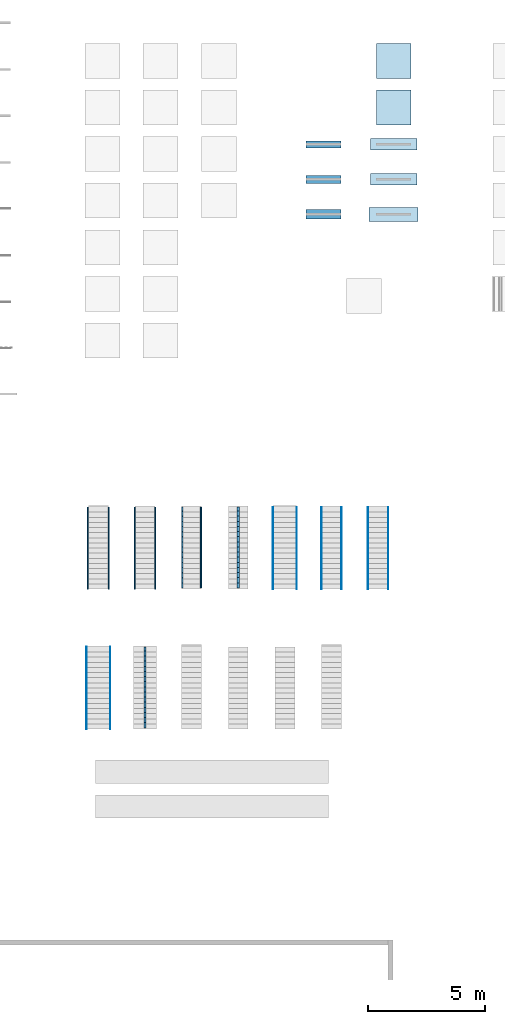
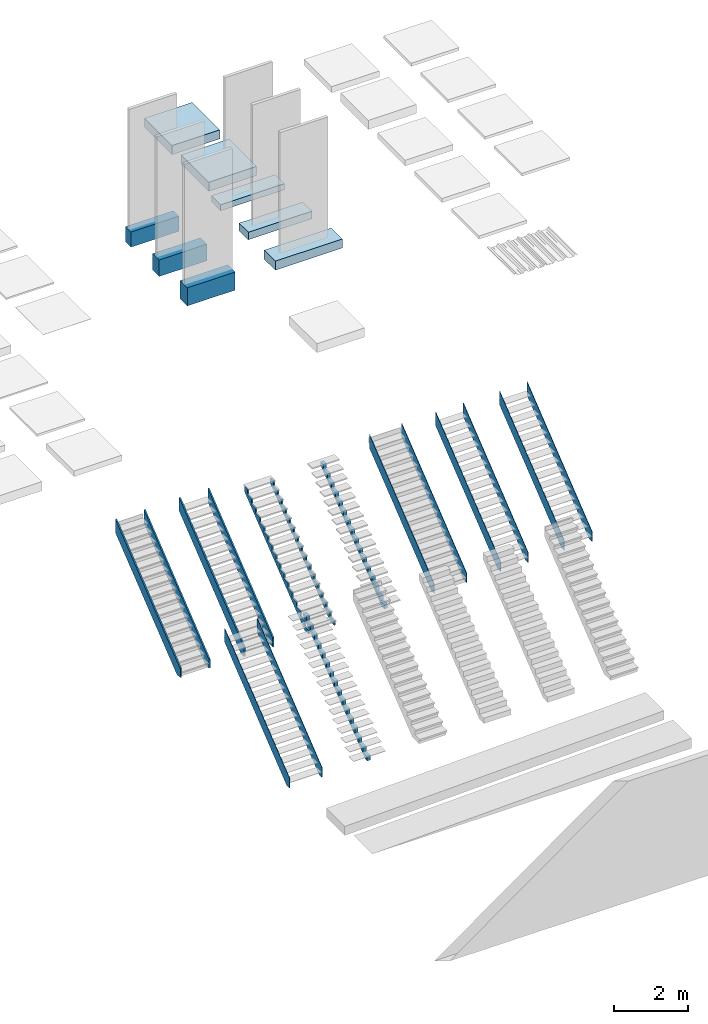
# One storey, part 1 of 13: 16 members, 8 footings, 9 elements without a shape of their own.
"""IFC2X3 building model written with IfcOpenShell, lengths in millimetres."""

from ifc_helpers import new_model, entity, si_unit, converted_unit, derived_unit, direction, frame, frame_2d, origin, origin_2d_with_axis, place, context, subcontext, project, spatial, polyline, rectangle, outline, extrude, material, layer, layer_set, layer_usage, type_object, element, aggregate, save


model = new_model("IFC2X3")

# Units and contexts
model_context = context("Model", 3, precision=0.01, world=origin(), true_north=direction((6.12303176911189e-17, 1.0)))
body_context = subcontext(model_context, "Body", "Model", "MODEL_VIEW")
ifc_project = project(units=[si_unit("LENGTHUNIT", "METRE", prefix="MILLI"), si_unit("AREAUNIT", "SQUARE_METRE"), si_unit("VOLUMEUNIT", "CUBIC_METRE"), converted_unit("PLANEANGLEUNIT", "DEGREE", entity("IfcRatioMeasure", 0.0174532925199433), si_unit("PLANEANGLEUNIT", "RADIAN"), dimensions=[0, 0, 0, 0, 0, 0, 0]), si_unit("MASSUNIT", "GRAM", prefix="KILO"), si_unit("TIMEUNIT", "SECOND"), si_unit("FREQUENCYUNIT", "HERTZ"), si_unit("THERMODYNAMICTEMPERATUREUNIT", "KELVIN"), derived_unit("THERMALTRANSMITTANCEUNIT", [(si_unit("MASSUNIT", "GRAM", prefix="KILO"), 1), (si_unit("THERMODYNAMICTEMPERATUREUNIT", "KELVIN"), -1), (si_unit("TIMEUNIT", "SECOND"), -3)]), derived_unit("VOLUMETRICFLOWRATEUNIT", [(si_unit("LENGTHUNIT", "METRE"), 3), (si_unit("TIMEUNIT", "SECOND"), -1)]), si_unit("ELECTRICCURRENTUNIT", "AMPERE"), si_unit("ELECTRICVOLTAGEUNIT", "VOLT"), si_unit("POWERUNIT", "WATT")], contexts=[model_context])

# Site, building, storey
site_placement = place(None, origin())
site = spatial("IfcSite", under=ifc_project, at=site_placement, Name="Surface", CompositionType="ELEMENT")
building_placement = place(site_placement, origin())
building = spatial("IfcBuilding", under=site, at=building_placement, CompositionType="ELEMENT")
storey_placement = place(building_placement, origin())
storey = spatial("IfcBuildingStorey", under=building, at=storey_placement, Name="00_begane grond", CompositionType="ELEMENT", Elevation=0.0)

# Footings
ifc_material_1 = material(Name="00_beton_ihwg_generiek")
ifc_layer_1 = layer(ifc_material_1, 300.0)
ifc_layer_set_1 = layer_set([ifc_layer_1], Name="Foundation Slab:16_SFO_funderingsplaat_beton_generiek_300")
ifc_layer_usage_1 = layer_usage(ifc_layer_set_1, "AXIS3", "POSITIVE", 0.0)
footing_1_placement = place(storey_placement, origin())
element("IfcFooting", 1, at=footing_1_placement, inside=storey, material=ifc_layer_usage_1, Name="Foundation Slab:16_SFO_funderingsplaat_beton_generiek_300", ObjectType="Foundation Slab:16_SFO_funderingsplaat_beton_generiek_300", PredefinedType="NOTDEFINED", context=body_context, shape_type="SweptSolid", body=[
    extrude(rectangle(XDim=1500.0, YDim=1500.00000000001, at=frame_2d((-1.13686837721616e-13, 0.0), x_axis=(1.0, 0.0))), frame((30443.3473849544, -2665.0, 0.0), z_axis=(0.0, 0.0, -1.0), x_axis=(0.0, 1.0, 0.0)), (0.0, 0.0, 1.0), 300.0),
])
ifc_material_2 = material(Name="16_beton_ihwg_C30/35")
ifc_layer_2 = layer(ifc_material_2, 300.0)
ifc_layer_set_2 = layer_set([ifc_layer_2], Name="Foundation Slab:16_SFO_funderingsplaat_ihwg_beton_C30/37")
ifc_layer_usage_2 = layer_usage(ifc_layer_set_2, "AXIS3", "POSITIVE", 0.0)
footing_2_placement = place(storey_placement, origin())
element("IfcFooting", 2, at=footing_2_placement, inside=storey, material=ifc_layer_usage_2, Name="Foundation Slab:16_SFO_funderingsplaat_ihwg_beton_C30/37", ObjectType="Foundation Slab:16_SFO_funderingsplaat_ihwg_beton_C30/37", PredefinedType="NOTDEFINED", context=body_context, shape_type="SweptSolid", body=[
    extrude(rectangle(XDim=1500.0, YDim=1500.00000000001, at=origin_2d_with_axis()), frame((30443.3473849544, -4665.0, 0.0), z_axis=(0.0, 0.0, -1.0), x_axis=(0.0, 1.0, 0.0)), (0.0, 0.0, 1.0), 300.0),
])
footing_3_placement = place(storey_placement, frame((29439.8687148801, -6498.93800739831, -200.0)))
element("IfcFooting", 3, at=footing_3_placement, inside=storey, material=ifc_material_2, Name="Wall Foundation:16_SFO_ihwg beton_C30-35_500x200", ObjectType="Wall Foundation:16_SFO_ihwg beton_C30-35_500x200", PredefinedType="STRIP_FOOTING", context=body_context, shape_type="SweptSolid", body=[
    extrude(rectangle(XDim=2000.0, YDim=500.0, at=frame_2d((2.1600499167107e-12, -5.40012479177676e-13), x_axis=(1.0, 0.0))), frame((1000.0, 250.0, 0.0)), (0.0, 0.0, 1.0), 200.0),
])
footing_4_placement = place(storey_placement, frame((29439.8687148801, -7998.93800739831, -250.0)))
element("IfcFooting", 4, at=footing_4_placement, inside=storey, material=ifc_material_2, Name="Wall Foundation:16_SFO_ihwg beton_C30-35_500x250", ObjectType="Wall Foundation:16_SFO_ihwg beton_C30-35_500x250", PredefinedType="STRIP_FOOTING", context=body_context, shape_type="SweptSolid", body=[
    extrude(rectangle(XDim=2000.0, YDim=500.0, at=frame_2d((2.1600499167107e-12, 5.40012479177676e-13), x_axis=(1.0, 0.0))), frame((1000.0, 250.0, 0.0)), (0.0, 0.0, 1.0), 250.0),
])
footing_5_placement = place(storey_placement, frame((29389.86871488, -9548.93800739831, -300.0)))
element("IfcFooting", 5, at=footing_5_placement, inside=storey, material=ifc_material_2, Name="Wall Foundation:16_SFO_ihwg beton_C30-35_600x300", ObjectType="Wall Foundation:16_SFO_ihwg beton_C30-35_600x300", PredefinedType="STRIP_FOOTING", context=body_context, shape_type="SweptSolid", body=[
    extrude(rectangle(XDim=2100.0, YDim=600.0, at=frame_2d((2.1600499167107e-12, 5.40012479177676e-13), x_axis=(1.0, 0.0))), frame((1050.0, 300.0, 0.0)), (0.0, 0.0, 1.0), 300.0),
])
ifc_material_3 = material(Name="16_beton_prefab_C35-45")
footing_6_placement = place(storey_placement, frame((26689.8687148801, -6398.9380073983, -500.0)))
element("IfcFooting", 6, at=footing_6_placement, inside=storey, material=ifc_material_3, Name="Wall Foundation:16_SFO_prefab beton_C35-45_300x500", ObjectType="Wall Foundation:16_SFO_prefab beton_C35-45_300x500", PredefinedType="STRIP_FOOTING", context=body_context, shape_type="SweptSolid", body=[
    extrude(rectangle(XDim=1500.0, YDim=300.0, at=frame_2d((2.1600499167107e-12, 0.0), x_axis=(1.0, 0.0))), frame((750.0, 150.0, 0.0)), (0.0, 0.0, 1.0), 500.0),
])
footing_7_placement = place(storey_placement, frame((26689.8687148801, -7923.9380073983, -550.0)))
element("IfcFooting", 7, at=footing_7_placement, inside=storey, material=ifc_material_3, Name="Wall Foundation:16_SFO_prefab beton_C35-45_350x550", ObjectType="Wall Foundation:16_SFO_prefab beton_C35-45_350x550", PredefinedType="STRIP_FOOTING", context=body_context, shape_type="SweptSolid", body=[
    extrude(rectangle(XDim=1500.0, YDim=349.999999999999, at=frame_2d((-2.1600499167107e-12, 1.08002495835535e-12), x_axis=(1.0, 0.0))), frame((750.0, 175.0, 0.0)), (0.0, 0.0, 1.0), 550.0),
])
footing_8_placement = place(storey_placement, frame((26689.86871488, -9448.9380073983, -600.0)))
element("IfcFooting", 8, at=footing_8_placement, inside=storey, material=ifc_material_3, Name="Wall Foundation:16_SFO_prefab beton_C35-45_400x600", ObjectType="Wall Foundation:16_SFO_prefab beton_C35-45_400x600", PredefinedType="STRIP_FOOTING", context=body_context, shape_type="SweptSolid", body=[
    extrude(rectangle(XDim=1500.0, YDim=400.0, at=frame_2d((-2.1600499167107e-12, 5.54223333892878e-13), x_axis=(1.0, 0.0))), frame((750.0, 200.0, 0.0)), (0.0, 0.0, 1.0), 600.0),
])

# Stair, members
stair_1_placement = place(storey_placement, origin())
stair_1 = element("IfcStair", 9, at=stair_1_placement, inside=storey, Name="Assembled Stair:Stair", ShapeType="NOTDEFINED")
member_type_1 = type_object("IfcMemberType", Name="Stringer:24_STS_trapboom_hout_vuren_45x50", PredefinedType="STRINGER")
member_1_placement = place(stair_1_placement, frame((17304.8089026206, -25324.6322235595, 0.0)))
member_1 = element("IfcMember", 10, at=member_1_placement, type_object=member_type_1, Name="Assembled Stair:Stair:68679 Stringer 1", ObjectType="Assembled Stair:24_ST_houten trap_gesloten_b=850_op=185_aan=220", context=body_context, shape_type="SweptSolid", body=[
    extrude(outline(polyline([(-1445.95512853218, -1217.55059934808), (-1256.1794858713, -1217.55059934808), (2074.04487146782, 1453.75236108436), (2074.04487146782, 1902.43912468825), (-1445.95512853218, -921.090287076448), (-1445.95512853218, -1217.55059934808)])), frame((0.0, 1445.95512853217, 1217.55059934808), z_axis=(1.0, 0.0, 0.0), x_axis=(0.0, 1.0, 0.0)), (0.0, 0.0, 1.0), 45.0000000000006),
])
member_2_placement = place(stair_1_placement, frame((18199.8089026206, -25324.6322235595, 0.0)))
member_2 = element("IfcMember", 11, at=member_2_placement, type_object=member_type_1, Name="Assembled Stair:Stair:68679 Stringer 2", ObjectType="Assembled Stair:24_ST_houten trap_gesloten_b=850_op=185_aan=220", context=body_context, shape_type="SweptSolid", body=[
    extrude(outline(polyline([(-1445.95512853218, -1217.55059934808), (-1256.17948587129, -1217.55059934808), (2074.04487146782, 1453.75236108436), (2074.04487146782, 1902.43912468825), (-1445.95512853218, -921.090287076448), (-1445.95512853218, -1217.55059934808)])), frame((0.0, 1445.95512853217, 1217.55059934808), z_axis=(1.0, 0.0, 0.0), x_axis=(0.0, 1.0, 0.0)), (0.0, 0.0, 1.0), 45.0000000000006),
])
aggregate(stair_1, [member_1, member_2])

stair_2_placement = place(storey_placement, origin())
stair_2 = element("IfcStair", 12, at=stair_2_placement, inside=storey, Name="Assembled Stair:Stair", ShapeType="NOTDEFINED")
member_3_placement = place(stair_2_placement, frame((19304.8089026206, -25324.6322235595, 0.0)))
member_3 = element("IfcMember", 13, at=member_3_placement, type_object=member_type_1, Name="Assembled Stair:Stair:68953 Stringer 1", ObjectType="Assembled Stair:24_ST_houten trap_open_b=850_op=185_aan=220", context=body_context, shape_type="SweptSolid", body=[
    extrude(outline(polyline([(-1443.95512853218, -1222.36343357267), (-1264.17948587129, -1222.36343357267), (2076.04487146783, 1456.96091723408), (2076.04487146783, 1905.64768083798), (-1443.95512853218, -917.881730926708), (-1443.95512853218, -1222.36343357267)])), frame((0.0, 1443.95512853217, 1222.36343357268), z_axis=(1.0, 0.0, 0.0), x_axis=(0.0, 1.0, 0.0)), (0.0, 0.0, 1.0), 45.0000000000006),
])
member_4_placement = place(stair_2_placement, frame((20199.8089026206, -25324.6322235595, 0.0)))
member_4 = element("IfcMember", 14, at=member_4_placement, type_object=member_type_1, Name="Assembled Stair:Stair:68953 Stringer 2", ObjectType="Assembled Stair:24_ST_houten trap_open_b=850_op=185_aan=220", context=body_context, shape_type="SweptSolid", body=[
    extrude(outline(polyline([(-1443.95512853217, -1222.36343357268), (-1264.17948587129, -1222.36343357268), (2076.04487146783, 1456.9609172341), (2076.04487146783, 1905.64768083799), (-1443.95512853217, -917.881730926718), (-1443.95512853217, -1222.36343357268)])), frame((0.0, 1443.95512853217, 1222.36343357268), z_axis=(1.0, 0.0, 0.0), x_axis=(0.0, 1.0, 0.0)), (0.0, 0.0, 1.0), 44.9999999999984),
])
aggregate(stair_2, [member_3, member_4])

stair_3_placement = place(storey_placement, origin())
stair_3 = element("IfcStair", 15, at=stair_3_placement, inside=storey, Name="Assembled Stair:Stair", ShapeType="NOTDEFINED")
ifc_material_4 = material(Name="24_hout_vuren_generiek")
member_type_2 = type_object("IfcMemberType", Name="Carriage:24_STC_middenboom_hout_vuren_45x100", PredefinedType="STRINGER")
member_5_placement = place(stair_3_placement, frame((21349.8089026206, -25274.6322235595, 0.0)))
member_5 = element("IfcMember", 16, at=member_5_placement, type_object=member_type_2, material=ifc_material_4, Name="Assembled Stair:Stair:69257 Stringer 1", ObjectType="Assembled Stair:24_ST_houten trap_open_gezadeld_b=850_op=185_aan=220", context=body_context, shape_type="SweptSolid", body=[
    extrude(outline(polyline([(-1743.00630762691, -1423.75434061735), (-1573.00630762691, -1423.75434061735), (-1573.00630762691, -1247.28375238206), (-1353.00630762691, -1247.28375238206), (-1353.00630762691, -1070.81316414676), (-1133.00630762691, -1070.81316414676), (-1133.00630762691, -894.34257591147), (-913.006307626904, -894.34257591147), (-913.006307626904, -717.871987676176), (-693.006307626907, -717.871987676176), (-693.006307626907, -541.401399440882), (-473.006307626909, -541.401399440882), (-473.006307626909, -364.930811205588), (-253.006307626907, -364.930811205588), (-253.006307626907, -188.460222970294), (-33.0063076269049, -188.460222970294), (-33.0063076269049, -11.9896347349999), (186.993692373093, -11.9896347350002), (186.993692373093, 164.480953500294), (406.993692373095, 164.480953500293), (406.993692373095, 340.951541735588), (626.993692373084, 340.951541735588), (626.993692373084, 517.422129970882), (846.993692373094, 517.422129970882), (846.993692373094, 693.892718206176), (1066.99369237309, 693.892718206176), (1066.99369237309, 870.36330644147), (1286.99369237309, 870.36330644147), (1286.99369237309, 1046.83389467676), (1506.99369237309, 1046.83389467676), (1506.99369237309, 1223.30448291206), (1726.99369237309, 1223.30448291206), (1726.99369237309, 1359.77507114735), (1517.30907371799, 1359.77507114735), (1506.99369237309, 1351.5007010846), (1286.99369237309, 1175.03011284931), (1066.99369237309, 998.55952461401), (846.993692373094, 822.088936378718), (626.993692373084, 645.618348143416), (406.993692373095, 469.147759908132), (186.993692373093, 292.677171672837), (-33.0063076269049, 116.206583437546), (-253.006307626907, -60.2640047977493), (-473.006307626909, -236.734593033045), (-693.006307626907, -413.205181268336), (-913.006307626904, -589.675769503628), (-1133.00630762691, -766.146357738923), (-1353.00630762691, -942.616945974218), (-1573.00630762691, -1119.08753420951), (-1743.00630762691, -1255.45117057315), (-1743.00630762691, -1423.75434061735)])), frame((0.0, 1726.99369237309, 1359.77507114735), z_axis=(1.0, 0.0, 0.0), x_axis=(0.0, -1.0, 0.0)), (0.0, 0.0, 1.0), 44.9999999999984),
])
member_6_placement = place(stair_3_placement, frame((22154.8089026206, -25274.6322235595, 0.0)))
member_6 = element("IfcMember", 17, at=member_6_placement, type_object=member_type_2, material=ifc_material_4, Name="Assembled Stair:Stair:69257 Stringer 2", ObjectType="Assembled Stair:24_ST_houten trap_open_gezadeld_b=850_op=185_aan=220", context=body_context, shape_type="SweptSolid", body=[
    extrude(outline(polyline([(-1757.15186803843, -1373.95151914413), (-1587.15186803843, -1373.95151914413), (-1587.15186803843, -1197.48093090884), (-1367.15186803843, -1197.48093090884), (-1367.15186803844, -1021.01034267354), (-1147.15186803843, -1021.01034267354), (-1147.15186803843, -844.539754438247), (-927.151868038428, -844.539754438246), (-927.15186803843, -668.069166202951), (-707.151868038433, -668.06916620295), (-707.151868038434, -491.598577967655), (-487.151868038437, -491.598577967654), (-487.151868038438, -315.127989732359), (-267.151868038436, -315.127989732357), (-267.151868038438, -138.657401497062), (-47.1518680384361, -138.657401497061), (-47.1518680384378, 37.813186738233), (172.84813196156, 37.813186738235), (172.848131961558, 214.283774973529), (392.84813196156, 214.283774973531), (392.848131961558, 390.754363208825), (612.848131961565, 390.754363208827), (612.848131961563, 567.224951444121), (832.848131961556, 567.224951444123), (832.848131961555, 743.695539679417), (1052.84813196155, 743.695539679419), (1052.84813196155, 920.166127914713), (1272.84813196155, 920.166127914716), (1272.84813196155, 1096.63671615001), (1492.84813196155, 1096.63671615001), (1492.84813196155, 1273.10730438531), (1712.84813196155, 1273.10730438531), (1712.84813196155, 1409.5778926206), (1503.16351330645, 1409.5778926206), (-1757.15186803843, -1205.64834909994), (-1757.15186803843, -1373.95151914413)])), frame((0.0, 1712.84813196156, 1409.57789262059), z_axis=(1.0, 0.0, 0.0), x_axis=(0.0, -1.0, 0.0)), (0.0, 0.0, 1.0), 44.9999999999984),
])
aggregate(stair_3, [member_5, member_6])

# Stair, member
stair_4_placement = place(storey_placement, origin())
stair_4 = element("IfcStair", 18, at=stair_4_placement, inside=storey, Name="Assembled Stair:Stair", ShapeType="NOTDEFINED")
member_type_3 = type_object("IfcMemberType", Name="Carriage:24_STC_middenboom_hout_vuren_100x50", PredefinedType="STRINGER")
member_7_placement = place(stair_4_placement, frame((23724.8089026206, -25274.6322235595, 0.0)))
member_7 = element("IfcMember", 19, at=member_7_placement, type_object=member_type_3, material=ifc_material_4, Name="Assembled Stair:Stair:69261 Stringer 1", ObjectType="Assembled Stair:24_ST_houten trap_open_middenboom_b=850_op=185_aan=220", context=body_context, shape_type="SweptSolid", body=[
    extrude(outline(polyline([(-1759.43498163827, -1372.1201445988), (-1589.43498163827, -1372.1201445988), (-1589.43498163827, -1195.6495563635), (-1369.43498163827, -1195.6495563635), (-1369.43498163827, -1019.17896812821), (-1149.43498163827, -1019.17896812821), (-1149.43498163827, -842.708379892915), (-929.434981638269, -842.708379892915), (-929.434981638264, -666.237791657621), (-709.434981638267, -666.237791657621), (-709.434981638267, -489.767203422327), (-489.434981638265, -489.767203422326), (-489.43498163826, -313.296615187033), (-269.434981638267, -313.296615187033), (-269.434981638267, -136.826026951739), (-49.4349816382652, -136.826026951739), (-49.4349816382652, 39.6445612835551), (170.565018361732, 39.6445612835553), (170.565018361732, 216.115149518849), (390.565018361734, 216.115149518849), (390.565018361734, 392.585737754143), (610.565018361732, 392.585737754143), (610.565018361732, 569.056325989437), (830.565018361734, 569.056325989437), (830.565018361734, 745.526914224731), (1050.56501836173, 745.526914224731), (1050.56501836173, 921.997502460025), (1270.56501836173, 921.997502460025), (1270.56501836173, 1098.46809069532), (1490.56501836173, 1098.46809069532), (1490.56501836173, 1274.93867893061), (1710.56501836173, 1274.93867893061), (1710.56501836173, 1411.40926716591), (1580.78937570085, 1411.40926716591), (-1759.43498163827, -1267.91508364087), (-1759.43498163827, -1372.1201445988)])), frame((0.0, 1710.56501836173, 1411.40926716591), z_axis=(1.0, 0.0, 0.0), x_axis=(0.0, -1.0, 0.0)), (0.0, 0.0, 1.0), 100.000000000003),
])
aggregate(stair_4, [member_7])

stair_5_placement = place(storey_placement, origin())
stair_5 = element("IfcStair", 20, at=stair_5_placement, inside=storey, Name="Assembled Stair:Stair", ShapeType="NOTDEFINED")
member_8_placement = place(stair_5_placement, frame((19724.8089026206, -31274.6322235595, 0.0)))
member_8 = element("IfcMember", 21, at=member_8_placement, type_object=member_type_3, material=ifc_material_4, Name="Assembled Stair:Stair:69309 Stringer 1", ObjectType="Assembled Stair:24_ST_stalen trap_open_middenboom_b=1000_op=185_aan=220", context=body_context, shape_type="SweptSolid", body=[
    extrude(outline(polyline([(-1760.32545782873, -1373.54871602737), (-1590.32545782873, -1373.54871602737), (-1590.32545782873, -1197.07812779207), (-1370.32545782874, -1197.07812779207), (-1370.32545782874, -1020.60753955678), (-1150.32545782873, -1020.60753955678), (-1150.32545782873, -844.136951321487), (-930.325457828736, -844.136951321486), (-930.32545782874, -667.666363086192), (-710.325457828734, -667.666363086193), (-710.325457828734, -491.195774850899), (-490.325457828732, -491.195774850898), (-490.325457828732, -314.725186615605), (-270.325457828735, -314.725186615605), (-270.325457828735, -138.25459838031), (-50.3254578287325, -138.254598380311), (-50.3254578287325, 38.2159898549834), (169.674542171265, 38.2159898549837), (169.674542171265, 214.686578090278), (389.674542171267, 214.686578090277), (389.674542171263, 391.157166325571), (609.674542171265, 391.157166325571), (609.674542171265, 567.627754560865), (829.674542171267, 567.627754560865), (829.674542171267, 744.098342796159), (1049.67454217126, 744.098342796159), (1049.67454217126, 920.568931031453), (1269.67454217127, 920.568931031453), (1269.67454217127, 1097.03951926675), (1489.67454217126, 1097.03951926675), (1489.67454217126, 1273.51010750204), (1709.67454217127, 1273.51010750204), (1709.67454217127, 1434.98069573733), (1611.06556617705, 1434.98069573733), (-1760.32545782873, -1269.34365506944), (-1760.32545782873, -1373.54871602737)])), frame((0.0, 1709.67454217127, 1434.98069573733), z_axis=(1.0, 0.0, 0.0), x_axis=(0.0, -1.0, 0.0)), (0.0, 0.0, 1.0), 100.000000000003),
])
aggregate(stair_5, [member_8])

# Stair, members
stair_6_placement = place(storey_placement, origin())
stair_6 = element("IfcStair", 22, at=stair_6_placement, inside=storey, Name="Assembled Stair:Stair", ShapeType="NOTDEFINED")
member_type_4 = type_object("IfcMemberType", Name="Stringer:24_STS_trapboom_hout_vuren_15x50", PredefinedType="STRINGER")
member_9_placement = place(stair_6_placement, frame((25259.8089026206, -25324.6322235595, 0.0)))
member_9 = element("IfcMember", 23, at=member_9_placement, type_object=member_type_4, material=ifc_material_4, Name="Assembled Stair:Stair:69280 Stringer 1", ObjectType="Assembled Stair:24_ST_stalen trap_gesloten_b=1000_op=185_aan=220", context=body_context, shape_type="SweptSolid", body=[
    extrude(outline(polyline([(-1440.72179519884, -1230.14418223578), (-1277.11281920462, -1230.14418223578), (2079.27820480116, 1462.14808300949), (2079.27820480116, 1910.83484661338), (-1440.72179519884, -912.694565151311), (-1440.72179519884, -1230.14418223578)])), frame((0.0, 1440.72179519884, 1230.14418223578), z_axis=(1.0, 0.0, 0.0), x_axis=(0.0, 1.0, 0.0)), (0.0, 0.0, 1.0), 15.0000000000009),
])
member_10_placement = place(stair_6_placement, frame((26274.8089026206, -25324.6322235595, 0.0)))
member_10 = element("IfcMember", 24, at=member_10_placement, type_object=member_type_4, material=ifc_material_4, Name="Assembled Stair:Stair:69280 Stringer 2", ObjectType="Assembled Stair:24_ST_stalen trap_gesloten_b=1000_op=185_aan=220", context=body_context, shape_type="SweptSolid", body=[
    extrude(outline(polyline([(-1440.72179519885, -1230.14418223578), (-1277.11281920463, -1230.14418223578), (2079.27820480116, 1462.14808300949), (2079.27820480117, 1910.83484661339), (-1440.72179519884, -912.694565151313), (-1440.72179519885, -1230.14418223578)])), frame((0.0, 1440.72179519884, 1230.14418223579), z_axis=(1.0, 0.0, 0.0), x_axis=(0.0, 1.0, 0.0)), (0.0, 0.0, 1.0), 15.0000000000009),
])
aggregate(stair_6, [member_9, member_10])

stair_7_placement = place(storey_placement, origin())
stair_7 = element("IfcStair", 25, at=stair_7_placement, inside=storey, Name="Assembled Stair:Stair", ShapeType="NOTDEFINED")
member_11_placement = place(stair_7_placement, frame((27334.8089026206, -25324.6322235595, 0.0)))
member_11 = element("IfcMember", 26, at=member_11_placement, type_object=member_type_4, material=ifc_material_4, Name="Assembled Stair:Stair:69283 Stringer 1", ObjectType="Assembled Stair:24_ST_stalen trap_open_b=850_op=185_aan=150", context=body_context, shape_type="SweptSolid", body=[
    extrude(outline(polyline([(-1437.72179519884, -1237.36343357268), (-1289.11281920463, -1237.36343357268), (2082.27820480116, 1466.96091723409), (2082.27820480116, 1915.64768083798), (-1437.72179519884, -907.881730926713), (-1437.72179519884, -1237.36343357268)])), frame((0.0, 1437.72179519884, 1237.36343357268), z_axis=(1.0, 0.0, 0.0), x_axis=(0.0, 1.0, 0.0)), (0.0, 0.0, 1.0), 15.0000000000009),
])
member_12_placement = place(stair_7_placement, frame((28199.8089026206, -25324.6322235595, 0.0)))
member_12 = element("IfcMember", 27, at=member_12_placement, type_object=member_type_4, material=ifc_material_4, Name="Assembled Stair:Stair:69283 Stringer 2", ObjectType="Assembled Stair:24_ST_stalen trap_open_b=850_op=185_aan=150", context=body_context, shape_type="SweptSolid", body=[
    extrude(outline(polyline([(-1437.72179519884, -1237.36343357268), (-1289.11281920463, -1237.36343357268), (2082.27820480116, 1466.9609172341), (2082.27820480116, 1915.64768083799), (-1437.72179519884, -907.881730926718), (-1437.72179519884, -1237.36343357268)])), frame((0.0, 1437.72179519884, 1237.36343357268), z_axis=(1.0, 0.0, 0.0), x_axis=(0.0, 1.0, 0.0)), (0.0, 0.0, 1.0), 15.0000000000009),
])
aggregate(stair_7, [member_11, member_12])

stair_8_placement = place(storey_placement, origin())
stair_8 = element("IfcStair", 28, at=stair_8_placement, inside=storey, Name="Assembled Stair:Stair", ShapeType="NOTDEFINED")
member_13_placement = place(stair_8_placement, frame((29334.8089026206, -25324.6322235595, 0.0)))
member_13 = element("IfcMember", 29, at=member_13_placement, type_object=member_type_4, material=ifc_material_4, Name="Assembled Stair:Stair:69288 Stringer 1", ObjectType="Assembled Stair:24_ST_stalen trap_open_b=850_op=185_aan=220", context=body_context, shape_type="SweptSolid", body=[
    extrude(outline(polyline([(-1437.72179519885, -1237.36343357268), (-1289.11281920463, -1237.36343357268), (2082.27820480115, 1466.96091723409), (2082.27820480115, 1915.64768083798), (-1437.72179519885, -907.881730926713), (-1437.72179519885, -1237.36343357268)])), frame((0.0, 1437.72179519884, 1237.36343357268), z_axis=(1.0, 0.0, 0.0), x_axis=(0.0, 1.0, 0.0)), (0.0, 0.0, 1.0), 15.0000000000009),
])
member_14_placement = place(stair_8_placement, frame((30199.8089026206, -25324.6322235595, 0.0)))
member_14 = element("IfcMember", 30, at=member_14_placement, type_object=member_type_4, material=ifc_material_4, Name="Assembled Stair:Stair:69288 Stringer 2", ObjectType="Assembled Stair:24_ST_stalen trap_open_b=850_op=185_aan=220", context=body_context, shape_type="SweptSolid", body=[
    extrude(outline(polyline([(-1437.72179519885, -1237.36343357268), (-1289.11281920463, -1237.36343357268), (2082.27820480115, 1466.9609172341), (2082.27820480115, 1915.64768083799), (-1437.72179519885, -907.881730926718), (-1437.72179519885, -1237.36343357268)])), frame((0.0, 1437.72179519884, 1237.36343357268), z_axis=(1.0, 0.0, 0.0), x_axis=(0.0, 1.0, 0.0)), (0.0, 0.0, 1.0), 15.0000000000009),
])
aggregate(stair_8, [member_13, member_14])

stair_9_placement = place(storey_placement, origin())
stair_9 = element("IfcStair", 31, at=stair_9_placement, inside=storey, Name="Assembled Stair:Stair", ShapeType="NOTDEFINED")
member_15_placement = place(stair_9_placement, frame((17259.8089026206, -31324.6322235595, 0.0)))
member_15 = element("IfcMember", 32, at=member_15_placement, type_object=member_type_4, material=ifc_material_4, Name="Assembled Stair:Stair:69305 Stringer 1", ObjectType="Assembled Stair:24_ST_stalen trap_open_b=1000_op=185_aan=350", context=body_context, shape_type="SweptSolid", body=[
    extrude(outline(polyline([(-1437.72179519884, -1237.36343357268), (-1289.11281920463, -1237.36343357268), (2082.27820480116, 1466.96091723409), (2082.27820480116, 1915.64768083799), (-1437.72179519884, -907.881730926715), (-1437.72179519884, -1237.36343357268)])), frame((0.0, 1437.72179519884, 1237.36343357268), z_axis=(1.0, 0.0, 0.0), x_axis=(0.0, 1.0, 0.0)), (0.0, 0.0, 1.0), 15.0000000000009),
])
member_16_placement = place(stair_9_placement, frame((18274.8089026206, -31324.6322235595, 0.0)))
member_16 = element("IfcMember", 33, at=member_16_placement, type_object=member_type_4, material=ifc_material_4, Name="Assembled Stair:Stair:69305 Stringer 2", ObjectType="Assembled Stair:24_ST_stalen trap_open_b=1000_op=185_aan=350", context=body_context, shape_type="SweptSolid", body=[
    extrude(outline(polyline([(-1437.72179519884, -1237.36343357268), (-1289.11281920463, -1237.36343357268), (2082.27820480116, 1466.96091723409), (2082.27820480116, 1915.64768083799), (-1437.72179519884, -907.881730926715), (-1437.72179519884, -1237.36343357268)])), frame((0.0, 1437.72179519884, 1237.36343357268), z_axis=(1.0, 0.0, 0.0), x_axis=(0.0, 1.0, 0.0)), (0.0, 0.0, 1.0), 15.0000000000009),
])
aggregate(stair_9, [member_15, member_16])

save(model, "model.ifc")
